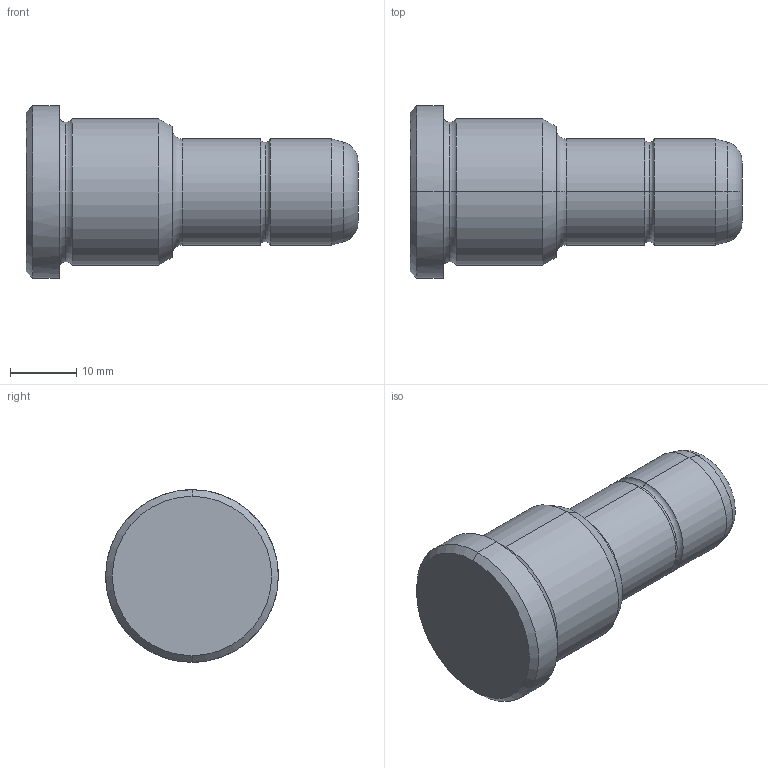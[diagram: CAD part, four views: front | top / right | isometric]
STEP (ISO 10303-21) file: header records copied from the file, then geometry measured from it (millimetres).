
FILE_DESCRIPTION(('CATIA V5 STEP Exchange'),'2;1');
FILE_NAME('C:\Users\Utente\Desktop\IO LAVORO\3D X SITO CF\X SITO\PLASTICA\351\351-16X22X50.stp','2021-08-18T10:59:39+00:00',('none'),('none'),'CATIA Version 5 Release 20 GA (IN-10)','CATIA V5 STEP AP203','none');
FILE_SCHEMA(('CONFIG_CONTROL_DESIGN'));
Length unit declared in the file: millimetre
Products named in the file (1): 351-16X22X50
Bounding box: 50 x 26 x 26 mm (x, y, z)
Volume: 14435.1 mm3; surface area: 3855.8 mm2
Topology: 1 solids, 1 shells, 30 faces, 86 edges, 60 vertices
Faces by surface type: torus 12, cylinder 8, cone 6, plane 4
Entity records: 1112 total; most frequent: CARTESIAN_POINT 289, ORIENTED_EDGE 172, DIRECTION 138, AXIS2_PLACEMENT_3D 95, EDGE_CURVE 86, CIRCLE 64, VERTEX_POINT 60, EDGE_LOOP 32
